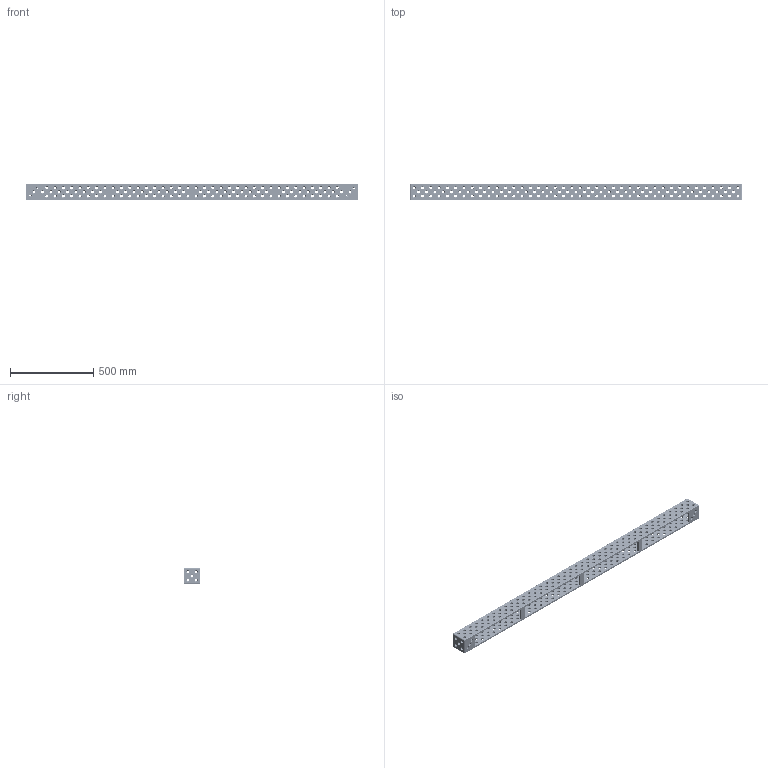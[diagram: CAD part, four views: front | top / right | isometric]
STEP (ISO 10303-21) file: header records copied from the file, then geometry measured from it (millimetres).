
FILE_DESCRIPTION (( 'STEP AP203' ), '1' );
FILE_NAME ('160390_2000x100x100.step', '2014-08-11T15:31:46', ( 'User' ), ( '' ), 'SwSTEP 2.0', 'SolidWorks 2014', '' );
FILE_SCHEMA (( 'CONFIG_CONTROL_DESIGN' ));
Length unit declared in the file: millimetre
Products named in the file (1): 160390_2000x100x100
Bounding box: 2000 x 100 x 100 mm (x, y, z)
Volume: 6014879.9 mm3; surface area: 1244986.1 mm2
Topology: 1 solids, 1 shells, 2282 faces, 5338 edges, 3056 vertices
Faces by surface type: cone 762, cylinder 754, torus 738, plane 28
Entity records: 67061 total; most frequent: DIRECTION 13646, CARTESIAN_POINT 10677, ORIENTED_EDGE 10676, AXIS2_PLACEMENT_3D 6025, EDGE_CURVE 5338, CIRCLE 3742, VERTEX_POINT 3056, EDGE_LOOP 3032
